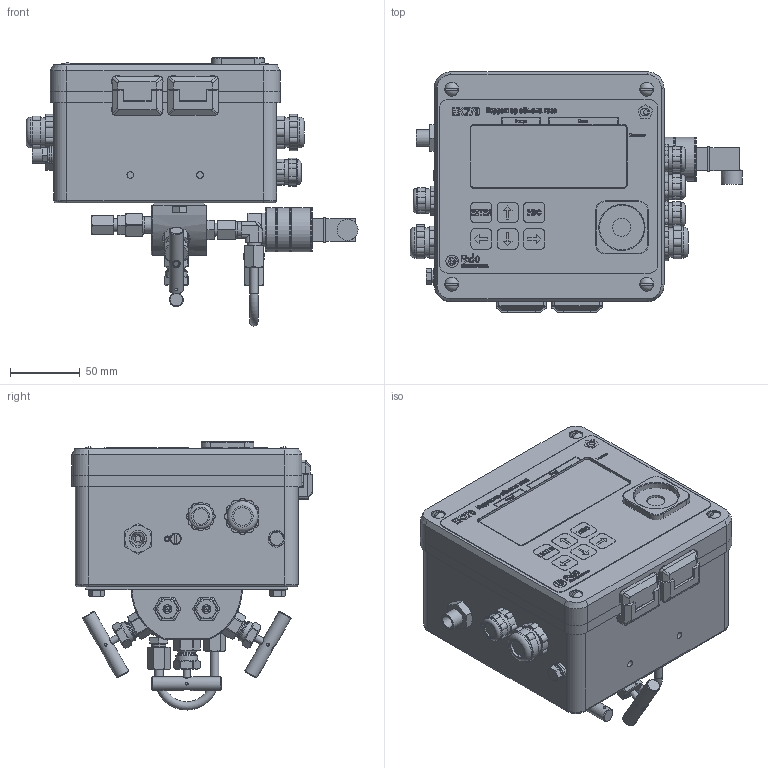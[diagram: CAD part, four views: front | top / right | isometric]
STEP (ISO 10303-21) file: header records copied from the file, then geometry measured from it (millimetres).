
FILE_DESCRIPTION(('STEP AP203'), '1');
FILE_NAME('EK270_UzelPPD', '', ('UNSPECIFIED'), ('UNSPECIFIED'), 'C3D Converter', 'C3D Toolkit', '');
FILE_SCHEMA(('CONFIG_CONTROL_DESIGN'));
Length unit declared in the file: millimetre
Products named in the file (3): 14; 9; 16
Assembly tree (2 placements, depth 2):
  14
    9
    16
Bounding box: 238.39 x 172.5 x 192.46 mm (x, y, z)
Volume: 2814745.6 mm3; surface area: 377179.4 mm2
Topology: 89 solids, 100 shells, 4556 faces, 12066 edges, 7889 vertices
Faces by surface type: plane 3211, cylinder 726, extrusion 320, cone 221, torus 62, bspline 11, sphere 5
Full cylindrical faces by diameter (mm): 1.95 x3, 2 x13, 2.5 x4, 2.791 x2, 3.2 x9, 3.3 x4, 3.45 x3, 3.5 x2, 4 x17, 4.249 x1, 4.3 x1, 4.8 x2, 5 x17, 5.5 x7, 6 x29, 6.2 x4, 6.4 x4, 6.5 x12, 6.6 x4, 7 x15, 8 x4, 8.77 x2, 9 x10, 9.4 x4, 9.8 x6, 10 x20, 10.376 x4, 10.4 x2, 10.5 x1, 10.8 x2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
Entity records: 186032 total; most frequent: CARTESIAN_POINT 54254, ORIENTED_EDGE 22991, DIRECTION 20869, EDGE_CURVE 11527, VECTOR 9095, LINE 8775, VERTEX_POINT 7871, AXIS2_PLACEMENT_3D 5887
